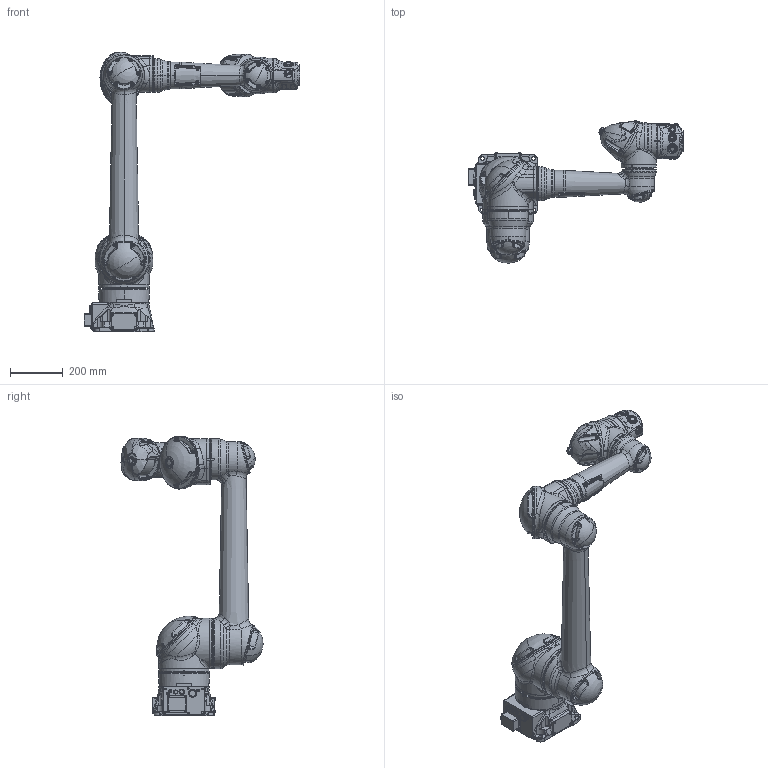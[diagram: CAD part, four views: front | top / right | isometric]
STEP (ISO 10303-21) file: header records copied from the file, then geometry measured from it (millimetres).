
FILE_DESCRIPTION((''),'2;1');
FILE_NAME('ASSY_VIEW_06VXHC10-B10_ASM','2019-07-29T',('morimasa'),('YASKAWA ELECTRIC CORPORATION'),'PRO/ENGINEER BY PARAMETRIC TECHNOLOGY CORPORATION, 2015030','PRO/ENGINEER BY PARAMETRIC TECHNOLOGY CORPORATION, 2015030','');
FILE_SCHEMA(('CONFIG_CONTROL_DESIGN'));
Products named in the file (8): BASE; S_AXIS; L_AXIS; U_AXIS_; R_AXIS; B_AXIS; T_AXIS_A; ASSY_VIEW_06VXHC10-B10_ASM
Assembly tree (7 placements, depth 2):
  ASSY_VIEW_06VXHC10-B10_ASM
    BASE
    S_AXIS
    L_AXIS
    U_AXIS_
    R_AXIS
    B_AXIS
    T_AXIS_A
Bounding box: 821.15 x 540.42 x 1063.5 mm (x, y, z)
Volume: 36354093.2 mm3; surface area: 1383374.6 mm2
Topology: 11 solids, 38 shells, 4592 faces, 11125 edges, 6772 vertices
Faces by surface type: plane 1719, bspline 973, cone 795, cylinder 741, torus 330, sphere 32, extrusion 2
Entity records: 211463 total; most frequent: CARTESIAN_POINT 112181, ORIENTED_EDGE 22138, DIRECTION 18416, EDGE_CURVE 11077, AXIS2_PLACEMENT_3D 7225, VERTEX_POINT 6772, EDGE_LOOP 4847, FACE_OUTER_BOUND 4592
